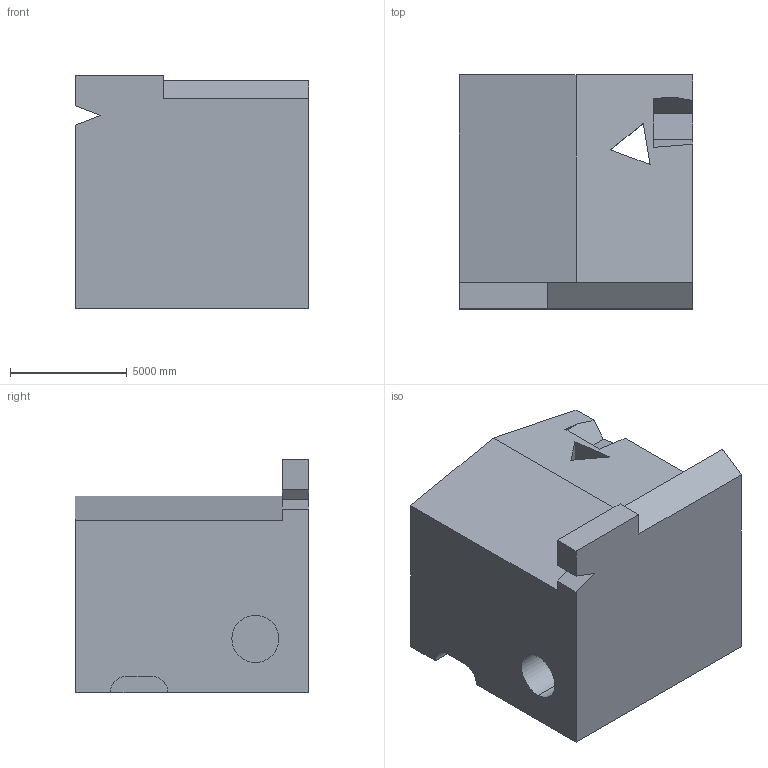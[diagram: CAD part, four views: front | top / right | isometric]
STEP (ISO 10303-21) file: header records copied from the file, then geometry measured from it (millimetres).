
FILE_DESCRIPTION (( 'STEP AP203' ), '1' );
FILE_NAME ('1852.STEP', '2022-08-19T13:33:08', ( 'user' ), ( '' ), 'SwSTEP 2.0', 'SolidWorks 2021', '' );
FILE_SCHEMA (( 'CONFIG_CONTROL_DESIGN' ));
Length unit declared in the file: centimetre
Products named in the file (1): 1852
Bounding box: 10000 x 10000 x 10000 mm (x, y, z)
Volume: 742728532912.9 mm3; surface area: 654838102.2 mm2
Topology: 1 solids, 1 shells, 34 faces, 93 edges, 62 vertices
Faces by surface type: plane 28, cylinder 6
Entity records: 1150 total; most frequent: CARTESIAN_POINT 190, ORIENTED_EDGE 186, DIRECTION 175, EDGE_CURVE 93, LINE 81, VECTOR 81, VERTEX_POINT 62, AXIS2_PLACEMENT_3D 47
